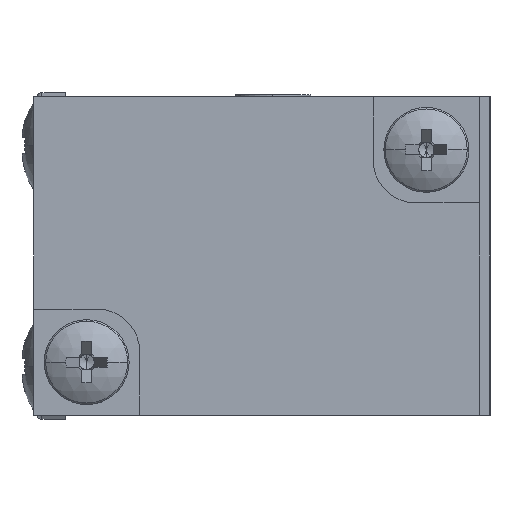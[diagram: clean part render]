
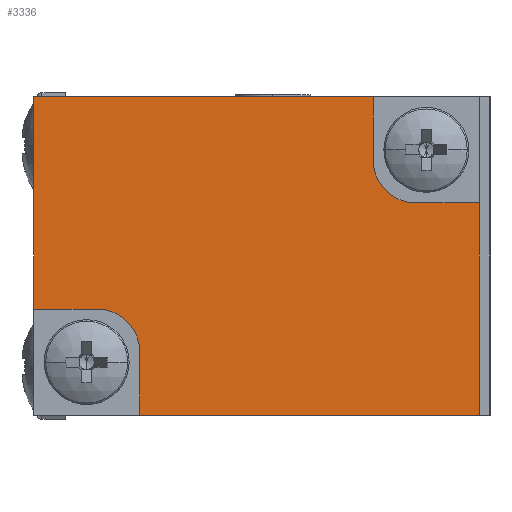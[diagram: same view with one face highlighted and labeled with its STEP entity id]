
A CAD part, left-side view. The second image highlights one B-rep face of the part: STEP entity #3336.
In plain terms, the highlighted planar face has unit normal (-1, 0, 0).
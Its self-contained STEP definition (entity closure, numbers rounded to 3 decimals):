
#162 = CARTESIAN_POINT ( 'NONE',  ( -9., 3., 4.5 ) ) ;
#170 = CIRCLE ( 'NONE', #4463, 2. ) ;
#258 = VERTEX_POINT ( 'NONE', #7230 ) ;
#264 = EDGE_LOOP ( 'NONE', ( #5784, #3838, #2115, #2851, #5890, #3203, #4600, #4800, #1242, #4844 ) ) ;
#487 = CARTESIAN_POINT ( 'NONE',  ( -9., 21., -2.5 ) ) ;
#986 = DIRECTION ( 'NONE',  ( 0., -1., 0. ) ) ;
#987 = DIRECTION ( 'NONE',  ( 1., 0., 0. ) ) ;
#999 = DIRECTION ( 'NONE',  ( 0., 0., 1. ) ) ;
#1056 = CARTESIAN_POINT ( 'NONE',  ( -9., 16., -7.5 ) ) ;
#1088 = VERTEX_POINT ( 'NONE', #1694 ) ;
#1242 = ORIENTED_EDGE ( 'NONE', *, *, #7624, .F. ) ;
#1272 = EDGE_CURVE ( 'NONE', #3928, #4055, #4763, .T. ) ;
#1285 = PLANE ( 'NONE',  #2094 ) ;
#1307 = VERTEX_POINT ( 'NONE', #7943 ) ;
#1335 = LINE ( 'NONE', #4929, #3387 ) ;
#1409 = FACE_OUTER_BOUND ( 'NONE', #264, .T. ) ;
#1426 = LINE ( 'NONE', #7411, #4788 ) ;
#1485 = LINE ( 'NONE', #6229, #5825 ) ;
#1694 = CARTESIAN_POINT ( 'NONE',  ( -9., 21., 7.5 ) ) ;
#1705 = DIRECTION ( 'NONE',  ( 0., 0., -1. ) ) ;
#1815 = VERTEX_POINT ( 'NONE', #5641 ) ;
#2094 = AXIS2_PLACEMENT_3D ( 'NONE', #2627, #5397, #8959 ) ;
#2114 = EDGE_CURVE ( 'NONE', #1307, #5888, #170, .T. ) ;
#2115 = ORIENTED_EDGE ( 'NONE', *, *, #1272, .T. ) ;
#2429 = VERTEX_POINT ( 'NONE', #487 ) ;
#2453 = CARTESIAN_POINT ( 'NONE',  ( -9., 0., 7.5 ) ) ;
#2627 = CARTESIAN_POINT ( 'NONE',  ( -9., 0., 7.5 ) ) ;
#2742 = LINE ( 'NONE', #2453, #5018 ) ;
#2828 = DIRECTION ( 'NONE',  ( 0., 1., 0. ) ) ;
#2851 = ORIENTED_EDGE ( 'NONE', *, *, #4076, .F. ) ;
#2911 = LINE ( 'NONE', #8616, #5425 ) ;
#3120 = LINE ( 'NONE', #4890, #4756 ) ;
#3170 = EDGE_CURVE ( 'NONE', #5144, #258, #2911, .T. ) ;
#3203 = ORIENTED_EDGE ( 'NONE', *, *, #6679, .T. ) ;
#3292 = DIRECTION ( 'NONE',  ( 0., -1., 0. ) ) ;
#3336 = ADVANCED_FACE ( 'NONE', ( #1409 ), #1285, .F. ) ;
#3387 = VECTOR ( 'NONE', #2828, 1000. ) ;
#3838 = ORIENTED_EDGE ( 'NONE', *, *, #5656, .F. ) ;
#3928 = VERTEX_POINT ( 'NONE', #5418 ) ;
#4055 = VERTEX_POINT ( 'NONE', #6319 ) ;
#4076 = EDGE_CURVE ( 'NONE', #8104, #4055, #3120, .T. ) ;
#4463 = AXIS2_PLACEMENT_3D ( 'NONE', #8743, #987, #5913 ) ;
#4600 = ORIENTED_EDGE ( 'NONE', *, *, #6513, .F. ) ;
#4756 = VECTOR ( 'NONE', #9074, 1000. ) ;
#4763 = CIRCLE ( 'NONE', #5623, 2. ) ;
#4788 = VECTOR ( 'NONE', #3292, 1000. ) ;
#4800 = ORIENTED_EDGE ( 'NONE', *, *, #2114, .T. ) ;
#4844 = ORIENTED_EDGE ( 'NONE', *, *, #3170, .T. ) ;
#4890 = CARTESIAN_POINT ( 'NONE',  ( -9., 5., 7.5 ) ) ;
#4929 = CARTESIAN_POINT ( 'NONE',  ( -9., 21., -2.5 ) ) ;
#4932 = EDGE_CURVE ( 'NONE', #1088, #8104, #1485, .T. ) ;
#5018 = VECTOR ( 'NONE', #1705, 1000. ) ;
#5022 = CARTESIAN_POINT ( 'NONE',  ( -9., 5., 7.5 ) ) ;
#5144 = VERTEX_POINT ( 'NONE', #5682 ) ;
#5397 = DIRECTION ( 'NONE',  ( 1., 0., 0. ) ) ;
#5418 = CARTESIAN_POINT ( 'NONE',  ( -9., 3., 2.5 ) ) ;
#5425 = VECTOR ( 'NONE', #986, 1000. ) ;
#5574 = LINE ( 'NONE', #6483, #5785 ) ;
#5623 = AXIS2_PLACEMENT_3D ( 'NONE', #162, #8624, #6435 ) ;
#5641 = CARTESIAN_POINT ( 'NONE',  ( -9., 0., 2.5 ) ) ;
#5656 = EDGE_CURVE ( 'NONE', #3928, #1815, #1426, .T. ) ;
#5682 = CARTESIAN_POINT ( 'NONE',  ( -9., 16., -7.5 ) ) ;
#5784 = ORIENTED_EDGE ( 'NONE', *, *, #7034, .F. ) ;
#5785 = VECTOR ( 'NONE', #7859, 1000. ) ;
#5825 = VECTOR ( 'NONE', #6883, 1000. ) ;
#5888 = VERTEX_POINT ( 'NONE', #6236 ) ;
#5890 = ORIENTED_EDGE ( 'NONE', *, *, #4932, .F. ) ;
#5913 = DIRECTION ( 'NONE',  ( 0., 0., -1. ) ) ;
#6029 = LINE ( 'NONE', #1056, #8906 ) ;
#6229 = CARTESIAN_POINT ( 'NONE',  ( -9., 0., 7.5 ) ) ;
#6236 = CARTESIAN_POINT ( 'NONE',  ( -9., 16., -4.5 ) ) ;
#6319 = CARTESIAN_POINT ( 'NONE',  ( -9., 5., 4.5 ) ) ;
#6435 = DIRECTION ( 'NONE',  ( 0., 0., -1. ) ) ;
#6483 = CARTESIAN_POINT ( 'NONE',  ( -9., 21., 7.5 ) ) ;
#6513 = EDGE_CURVE ( 'NONE', #1307, #2429, #1335, .T. ) ;
#6679 = EDGE_CURVE ( 'NONE', #1088, #2429, #5574, .T. ) ;
#6883 = DIRECTION ( 'NONE',  ( 0., -1., 0. ) ) ;
#7034 = EDGE_CURVE ( 'NONE', #1815, #258, #2742, .T. ) ;
#7230 = CARTESIAN_POINT ( 'NONE',  ( -9., 0., -7.5 ) ) ;
#7411 = CARTESIAN_POINT ( 'NONE',  ( -9., 0., 2.5 ) ) ;
#7624 = EDGE_CURVE ( 'NONE', #5144, #5888, #6029, .T. ) ;
#7859 = DIRECTION ( 'NONE',  ( 0., 0., -1. ) ) ;
#7943 = CARTESIAN_POINT ( 'NONE',  ( -9., 18., -2.5 ) ) ;
#8104 = VERTEX_POINT ( 'NONE', #5022 ) ;
#8616 = CARTESIAN_POINT ( 'NONE',  ( -9., 0., -7.5 ) ) ;
#8624 = DIRECTION ( 'NONE',  ( 1., 0., 0. ) ) ;
#8743 = CARTESIAN_POINT ( 'NONE',  ( -9., 18., -4.5 ) ) ;
#8906 = VECTOR ( 'NONE', #999, 1000. ) ;
#8959 = DIRECTION ( 'NONE',  ( 0., 0., -1. ) ) ;
#9074 = DIRECTION ( 'NONE',  ( 0., 0., -1. ) ) ;
